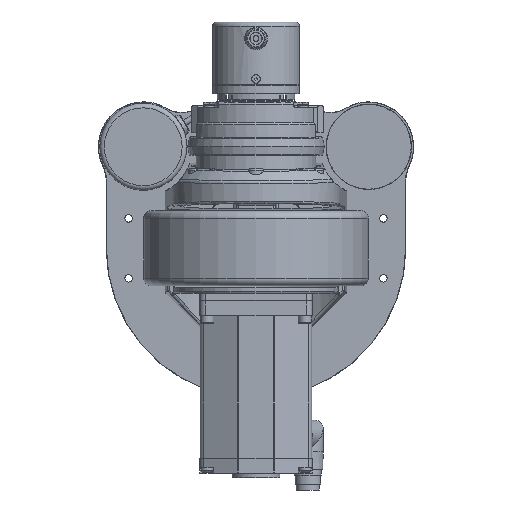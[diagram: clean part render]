
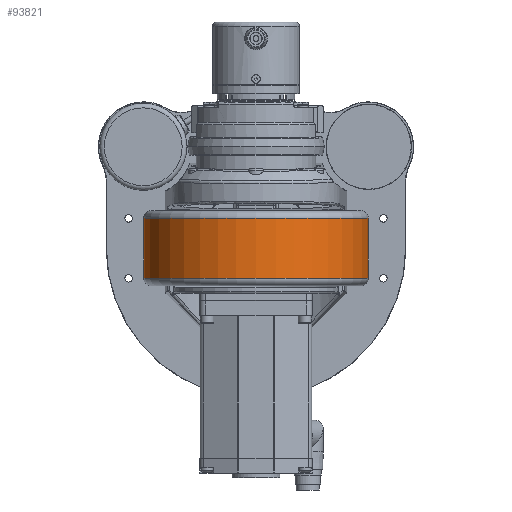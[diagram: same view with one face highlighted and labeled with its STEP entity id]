
A CAD part, front view. The second image highlights one B-rep face of the part: STEP entity #93821.
In plain terms, the highlighted cylindrical face has radius 75 mm (diameter 150 mm), a full revolution.
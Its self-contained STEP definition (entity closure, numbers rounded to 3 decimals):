
#1934 = CARTESIAN_POINT ( 'NONE',  ( -123.529, 31.583, 255.703 ) ) ;
#11511 = VERTEX_POINT ( 'NONE', #20645 ) ;
#20645 = CARTESIAN_POINT ( 'NONE',  ( -123.529, 31.583, 215.703 ) ) ;
#25433 = CARTESIAN_POINT ( 'NONE',  ( -48.529, 31.583, 215.703 ) ) ;
#26276 = AXIS2_PLACEMENT_3D ( 'NONE', #25433, #83945, #92380 ) ;
#29242 = DIRECTION ( 'NONE',  ( 0., 0., 1. ) ) ;
#31417 = ORIENTED_EDGE ( 'NONE', *, *, #61930, .T. ) ;
#32684 = VERTEX_POINT ( 'NONE', #1934 ) ;
#42687 = DIRECTION ( 'NONE',  ( -1., 0., 0. ) ) ;
#44469 = ORIENTED_EDGE ( 'NONE', *, *, #46911, .T. ) ;
#46101 = CARTESIAN_POINT ( 'NONE',  ( -48.529, 31.583, 210.703 ) ) ;
#46911 = EDGE_CURVE ( 'NONE', #32684, #32684, #108291, .T. ) ;
#49380 = EDGE_LOOP ( 'NONE', ( #44469 ) ) ;
#50243 = CIRCLE ( 'NONE', #26276, 75. ) ;
#59182 = EDGE_LOOP ( 'NONE', ( #31417 ) ) ;
#61925 = FACE_OUTER_BOUND ( 'NONE', #59182, .T. ) ;
#61930 = EDGE_CURVE ( 'NONE', #11511, #11511, #50243, .T. ) ;
#68528 = CYLINDRICAL_SURFACE ( 'NONE', #82356, 75. ) ;
#69800 = FACE_OUTER_BOUND ( 'NONE', #49380, .T. ) ;
#73537 = AXIS2_PLACEMENT_3D ( 'NONE', #92438, #84366, #42687 ) ;
#82356 = AXIS2_PLACEMENT_3D ( 'NONE', #46101, #29242, #87785 ) ;
#83945 = DIRECTION ( 'NONE',  ( 0., 0., 1. ) ) ;
#84366 = DIRECTION ( 'NONE',  ( 0., 0., -1. ) ) ;
#87785 = DIRECTION ( 'NONE',  ( 1., 0., 0. ) ) ;
#92380 = DIRECTION ( 'NONE',  ( -1., 0., 0. ) ) ;
#92438 = CARTESIAN_POINT ( 'NONE',  ( -48.529, 31.583, 255.703 ) ) ;
#93821 = ADVANCED_FACE ( 'NONE', ( #69800, #61925 ), #68528, .T. ) ;
#108291 = CIRCLE ( 'NONE', #73537, 75. ) ;
